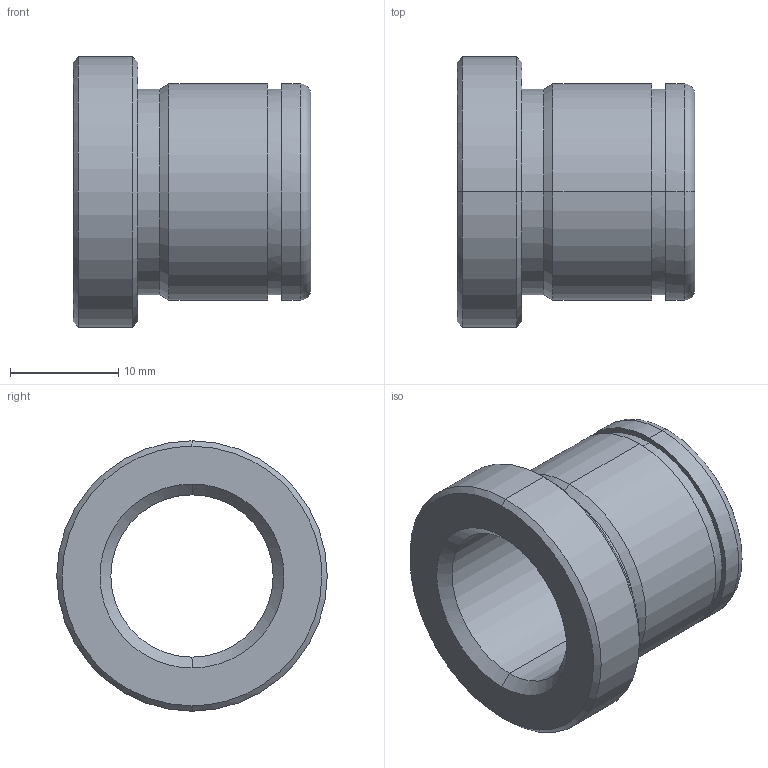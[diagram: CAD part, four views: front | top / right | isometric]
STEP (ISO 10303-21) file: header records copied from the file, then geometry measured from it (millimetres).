
FILE_DESCRIPTION(('CATIA V5 STEP Exchange'),'2;1');
FILE_NAME('C:\Users\Utente\Desktop\IO LAVORO\3D X SITO CF\X SITO\PLASTICA\553\553-15X22.stp','2021-05-21T18:39:50+00:00',('none'),('none'),'CATIA Version 5 Release 20 GA (IN-10)','CATIA V5 STEP AP203','none');
FILE_SCHEMA(('CONFIG_CONTROL_DESIGN'));
Length unit declared in the file: millimetre
Products named in the file (1): 553-15X22
Bounding box: 22 x 25 x 25 mm (x, y, z)
Volume: 3888.7 mm3; surface area: 3100.3 mm2
Topology: 1 solids, 1 shells, 28 faces, 88 edges, 64 vertices
Faces by surface type: cylinder 12, cone 8, plane 4, torus 4
Entity records: 1176 total; most frequent: CARTESIAN_POINT 359, ORIENTED_EDGE 176, DIRECTION 130, EDGE_CURVE 88, AXIS2_PLACEMENT_3D 83, VERTEX_POINT 64, CIRCLE 54, EDGE_LOOP 32
